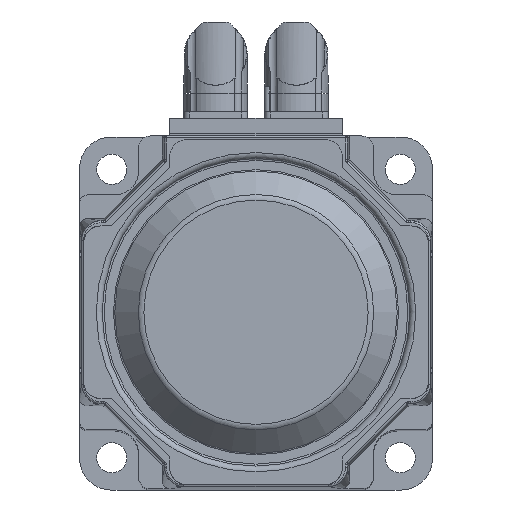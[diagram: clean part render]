
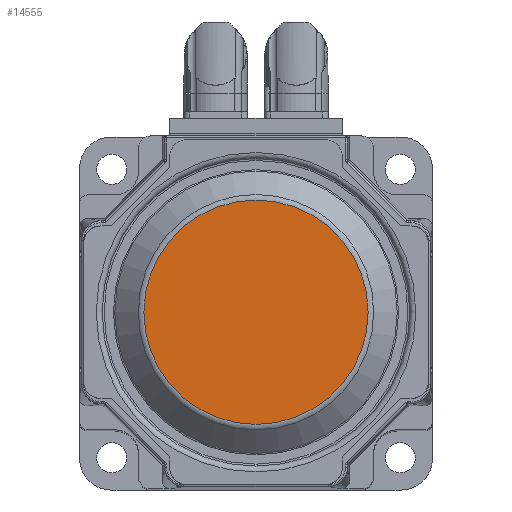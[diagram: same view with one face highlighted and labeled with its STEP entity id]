
A CAD part, top view. The second image highlights one B-rep face of the part: STEP entity #14555.
In plain terms, the highlighted planar face has unit normal (0, 0, 1).
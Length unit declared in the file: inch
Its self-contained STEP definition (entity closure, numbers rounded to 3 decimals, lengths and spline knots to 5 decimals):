
#14535=CARTESIAN_POINT('',(0.0,1.78622,1.69));
#14536=VERTEX_POINT('',#14535);
#14537=CARTESIAN_POINT('',(0.0,0.0,1.69));
#14538=DIRECTION('',(0.0,0.0,-1.0));
#14539=DIRECTION('',(0.0,1.0,0.0));
#14540=AXIS2_PLACEMENT_3D('',#14537,#14538,#14539);
#14541=CIRCLE('',#14540,1.78622);
#14542=EDGE_CURVE('',#14536,#14536,#14541,.T.);
#14547=CARTESIAN_POINT('',(0.0,0.89311,1.69));
#14548=DIRECTION('',(0.0,0.0,1.0));
#14549=DIRECTION('',(1.0,0.0,0.0));
#14550=AXIS2_PLACEMENT_3D('',#14547,#14548,#14549);
#14551=PLANE('',#14550);
#14552=ORIENTED_EDGE('',*,*,#14542,.F.);
#14553=EDGE_LOOP('',(#14552));
#14554=FACE_OUTER_BOUND('',#14553,.T.);
#14555=ADVANCED_FACE('',(#14554),#14551,.T.);
